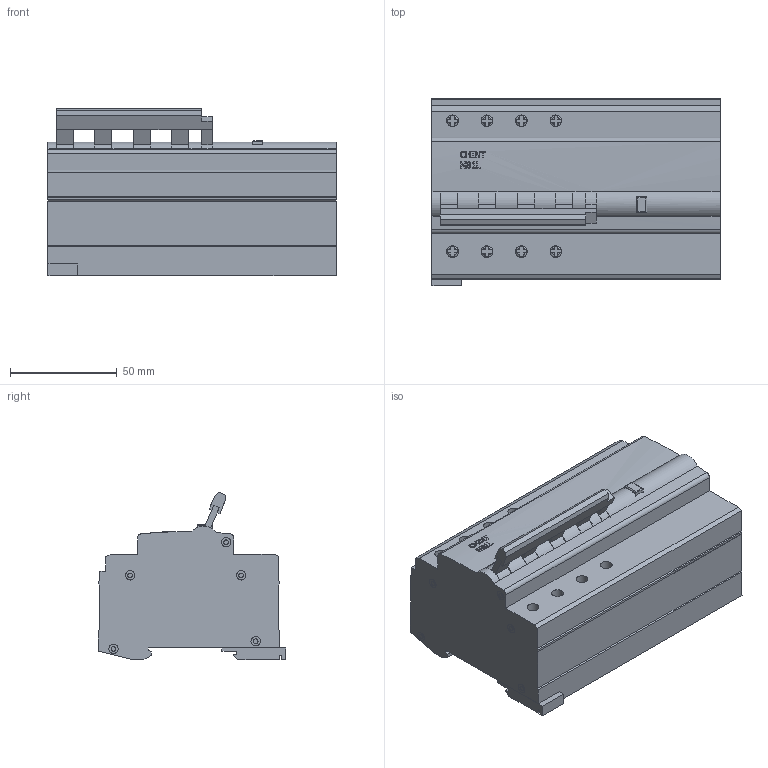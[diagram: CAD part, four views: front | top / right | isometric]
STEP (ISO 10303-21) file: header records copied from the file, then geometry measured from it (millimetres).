
FILE_DESCRIPTION(/* description */ (''),/* implementation_level */ '2;1');
FILE_NAME(/* name */ 'D:\CHINT\NB1L\Диф. автомат NB1L-63 4P C50 30mA тип AC 6kA (R) (CHINT).stp',/* time_stamp */ '2017-09-24T19:19:39+04:00',/* author */ ('RSagdiev'),/* organization */ (''),/* preprocessor_version */ 'ST-DEVELOPER v16.5',/* originating_system */ 'Autodesk Inventor 2017',/* authorisation */ '');
FILE_SCHEMA (('AUTOMOTIVE_DESIGN { 1 0 10303 214 3 1 1 }'));
Length unit declared in the file: millimetre
Products named in the file (1): Диф. автомат NB1L-63 4P
 C50 30mA тип AC 6kA (R) (CHINT)
Bounding box: 135 x 88 x 78.44 mm (x, y, z)
Volume: 593234.6 mm3; surface area: 60668.3 mm2
Topology: 18 solids, 18 shells, 451 faces, 1094 edges, 721 vertices
Faces by surface type: plane 345, cylinder 67, bspline 31, torus 8
Full cylindrical faces by diameter (mm): 2.1 x3, 2.2 x11, 4.4 x10, 5.5 x8
Entity records: 13534 total; most frequent: CARTESIAN_POINT 2985, DIRECTION 2160, ORIENTED_EDGE 2092, EDGE_CURVE 1046, AXIS2_PLACEMENT_3D 756, VERTEX_POINT 713, LINE 648, VECTOR 648
